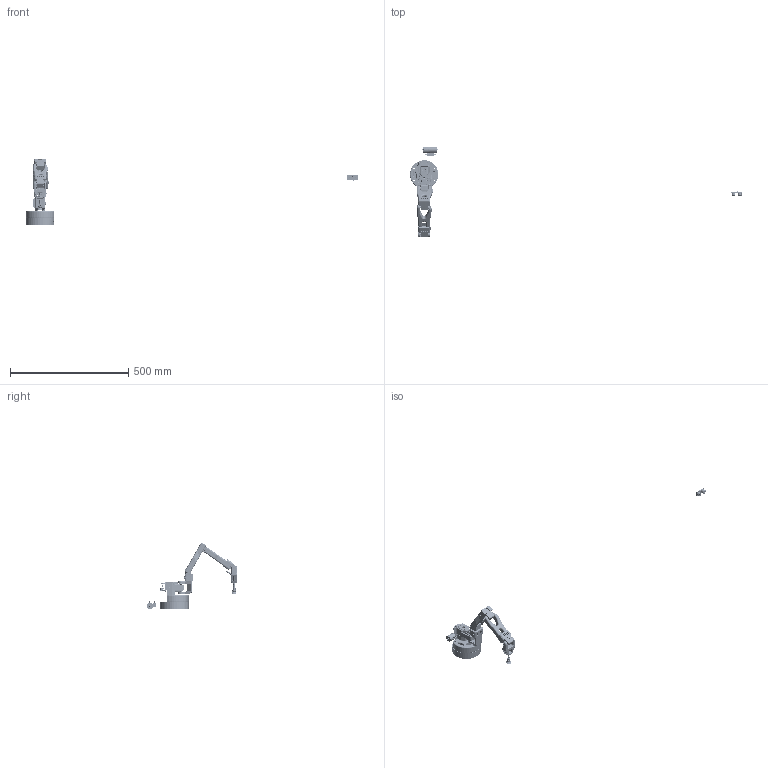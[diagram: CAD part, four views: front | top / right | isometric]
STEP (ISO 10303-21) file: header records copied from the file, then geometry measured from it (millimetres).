
FILE_DESCRIPTION(/* description */ ('','CAx-IF Rec.Pracs.---Representation and Presentation of Product Manufacturing Information (PMI)---4.0---2014-10-13'),/* implementation_level */ '2;1');
FILE_NAME(/* name */ 'SO101 Assembl v4.stp',/* time_stamp */ '2026-05-22T12:30:11+02:00',/* author */ ('R5800u'),/* organization */ (''),/* preprocessor_version */ 'ST-DEVELOPER v20',/* originating_system */ 'Autodesk Inventor 2025',/* authorisation */ '');
FILE_SCHEMA (('AP242_MANAGED_MODEL_BASED_3D_ENGINEERING_MIM_LF { 1 0 10303 442 1 1 4 }'));
Length unit declared in the file: millimetre
Products named in the file (211): SO101 Assembl v4; Base_SO101 v13; Rotation_Pitch_SO101; Upper_arm_SO101; Parte6; Under_arm_SO101; Parte8; Base_08p; Motor_holder_SO101_Base; Parte12; Motor_holder_SO101_Wrist; Parte14; Wrist_Roll_Pitch_SO100 v16; Parte16; CRFHTSTATI ANSI B18.6.4 - 1-42 x 3/16 Steel Grade 2 Plain; PCB; Board; C1; C2; C3; C4; C5; C7; C_0603; C_0603-7177_AF0_ASM; C_0603-683_AF0_ASM; C6; D2; DC1; dc-005-5a-20; H1; User_Library-DG350-3,5-02P; H3; H5; X2564WV-03-N0SN; R2; R0603; R_0603-3615_AF0_ASM; R_0603-3601_AF0_ASM; R3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
Assembly tree (308 placements, depth 7):
  SO101 Assembl v4
    Base_SO101 v13
    Rotation_Pitch_SO101
    Upper_arm_SO101
      Parte6
    Under_arm_SO101
      Parte8
    Base_08p
    Motor_holder_SO101_Base
      Parte12
    Motor_holder_SO101_Wrist
      Parte14
    Wrist_Roll_Pitch_SO100 v16
      Parte16
    CRFHTSTATI ANSI B18.6.4 - 1-42 x 3/16 Steel Grade 2 Plain  x4
    PCB
      Board
      C1
        User_Library-0603_SMD_Capacitor
      C2
        User_Library-0603_SMD_Capacitor
      C3
        User_Library-0603_SMD_Capacitor
      C4
        User_Library-0603_SMD_Capacitor
      C5
        User_Library-0603_SMD_Capacitor
      C7
        C_0603
          C_0603-7177_AF0_ASM
            C_0603-683_AF0_ASM
              2_1_200
              _1_1_20001
              3_1_2_A
      C6
        User_Library-0603_SMD_Capacitor
      D2
        SOD323
      DC1
        dc-005-5a-20
      H1
        User_Library-DG350-3,5-02P
      H3
        X2564WV-03-N0SN
      H5
        X2564WV-03-N0SN
      R2
        R0603
          R_0603-3615_AF0_ASM
            R_0603-3601_AF0_ASM
              _2_1_2_3_4_AF0
              _7_1_2_AF0
              5_1_2_3_400
      R3
        R0603_1
          R_0603-3615_AF0_ASM_1
            R_0603-3601_AF0_ASM_1
              _2_1_2_3_4_AF0
              _7_1_2_AF0
              5_1_2_3_400
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Bounding box: 1404.64 x 383.73 x 281.53 mm (x, y, z)
Volume: 1187645.5 mm3; surface area: 326835.7 mm2
Topology: 222 solids, 277 shells, 25019 faces, 68984 edges, 45326 vertices
Faces by surface type: plane 16295, cylinder 4660, bspline 3002, cone 446, torus 377, sphere 239
Full cylindrical faces by diameter (mm): 0.08 x1, 0.4 x1, 0.5 x4, 0.7 x12, 0.762 x2, 0.8 x6, 0.82 x6, 0.889 x11, 1 x13, 1.112 x117, 1.14 x1, 1.2 x14, 1.221 x27, 1.23 x4, 1.25 x2, 1.454 x27, 1.5 x61, 1.524 x114, 1.6 x54, 1.8 x16, 1.829 x4, 2 x23, 2.2 x28, 2.202 x1, 2.256 x4, 2.4 x1, 2.43 x4, 2.5 x141, 2.6 x4, 2.7 x4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
Entity records: 580042 total; most frequent: CARTESIAN_POINT 180815, ORIENTED_EDGE 83033, DIRECTION 75467, EDGE_CURVE 41527, LINE 32247, VECTOR 32247, VERTEX_POINT 27296, AXIS2_PLACEMENT_3D 21610
